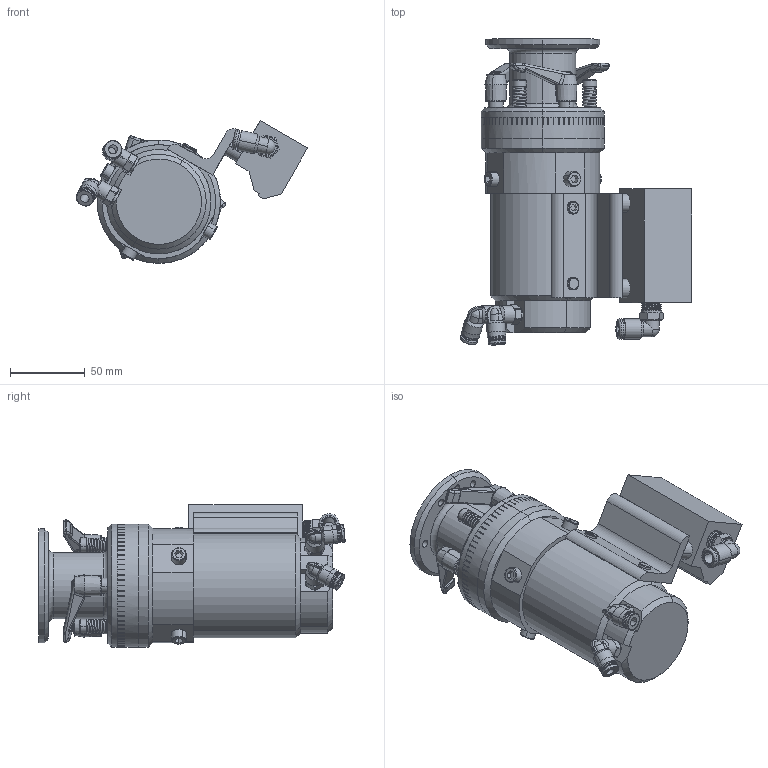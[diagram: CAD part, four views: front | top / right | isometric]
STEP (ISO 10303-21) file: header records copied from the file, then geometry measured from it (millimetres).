
FILE_DESCRIPTION (( 'STEP AP214' ), '1' );
FILE_NAME ('PWH-38-F4.STEP', '2017-01-19T13:54:10', ( '' ), ( '' ), 'SwSTEP 2.0', 'SolidWorks 2017', '' );
FILE_SCHEMA (( 'AUTOMOTIVE_DESIGN' ));
Length unit declared in the file: inch
Products named in the file (1): PWH-38-F4
Bounding box: 154.81 x 204.85 x 95.52 mm (x, y, z)
Volume: 792910.3 mm3; surface area: 104295.1 mm2
Topology: 1 solids, 1 shells, 1040 faces, 2565 edges, 1580 vertices
Faces by surface type: plane 588, cylinder 239, cone 125, torus 42, bspline 36, sphere 10
Entity records: 45803 total; most frequent: CARTESIAN_POINT 21379, ORIENTED_EDGE 5116, DIRECTION 5107, EDGE_CURVE 2558, AXIS2_PLACEMENT_3D 1873, VERTEX_POINT 1580, LINE 1361, VECTOR 1361
